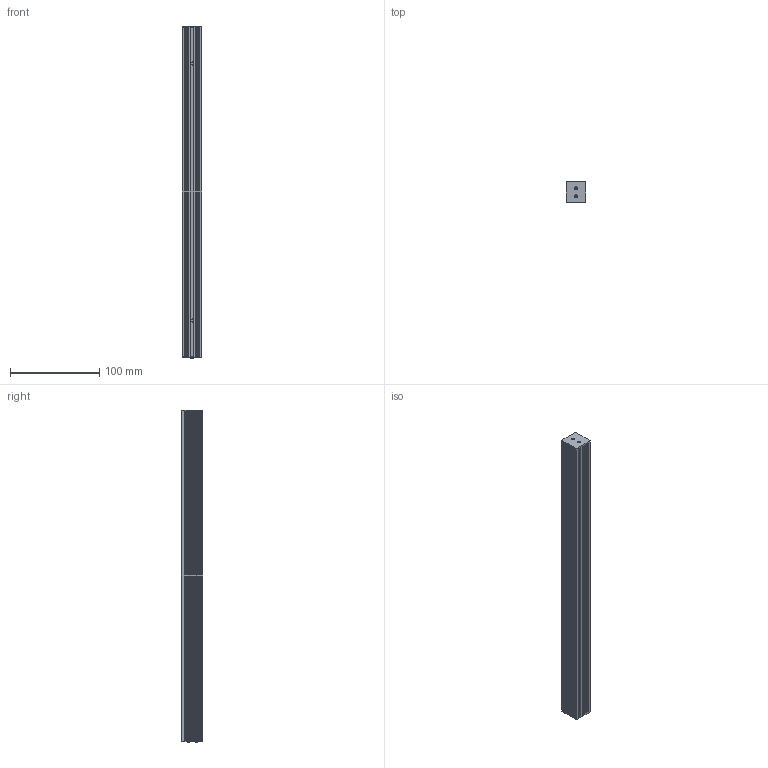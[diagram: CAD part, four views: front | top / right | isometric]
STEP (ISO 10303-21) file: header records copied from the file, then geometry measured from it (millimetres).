
FILE_DESCRIPTION((''),'2;1');
FILE_NAME('DSL','2020-03-23T',('ASUS'),(''),'PRO/ENGINEER BY PARAMETRIC TECHNOLOGY CORPORATION, 2008380','PRO/ENGINEER BY PARAMETRIC TECHNOLOGY CORPORATION, 2008380','');
FILE_SCHEMA(('CONFIG_CONTROL_DESIGN'));
Length unit declared in the file: millimetre
Products named in the file (1): DSL
Bounding box: 22 x 24.02 x 373 mm (x, y, z)
Volume: 171947.1 mm3; surface area: 66286.6 mm2
Topology: 1 solids, 5 shells, 279 faces, 714 edges, 466 vertices
Faces by surface type: plane 173, cylinder 86, cone 20
Entity records: 8422 total; most frequent: CARTESIAN_POINT 1473, DIRECTION 1451, ORIENTED_EDGE 1396, EDGE_CURVE 706, VECTOR 507, LINE 507, AXIS2_PLACEMENT_3D 472, VERTEX_POINT 466
